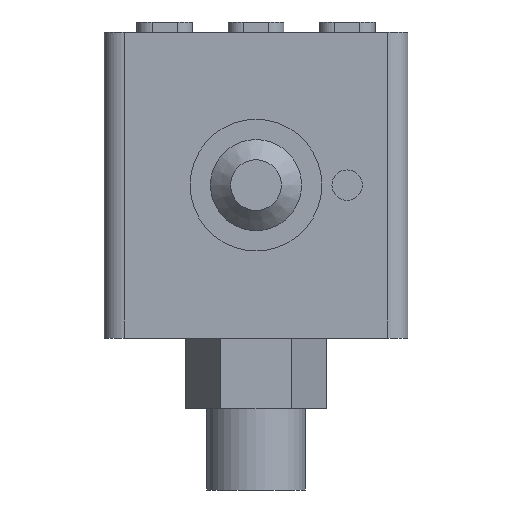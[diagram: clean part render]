
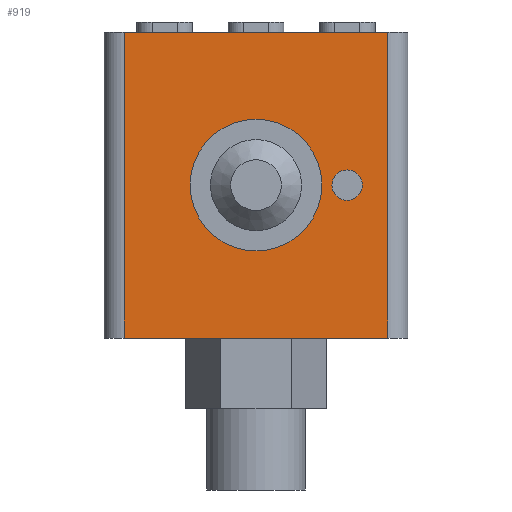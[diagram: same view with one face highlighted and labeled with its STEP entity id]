
A CAD part, front view. The second image highlights one B-rep face of the part: STEP entity #919.
In plain terms, the highlighted planar face has unit normal (0, -1, 0).
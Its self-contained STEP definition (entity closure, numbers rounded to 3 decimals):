
#20=FACE_BOUND('',#189,.T.);
#21=FACE_BOUND('',#190,.T.);
#56=PLANE('',#1037);
#129=FACE_OUTER_BOUND('',#188,.T.);
#188=EDGE_LOOP('',(#826,#827,#828,#829));
#189=EDGE_LOOP('',(#830));
#190=EDGE_LOOP('',(#831));
#266=LINE('',#1554,#347);
#274=LINE('',#1577,#355);
#275=LINE('',#1580,#356);
#276=LINE('',#1581,#357);
#347=VECTOR('',#1282,10.);
#355=VECTOR('',#1308,10.);
#356=VECTOR('',#1311,10.);
#357=VECTOR('',#1312,10.);
#395=CIRCLE('',#1019,1.5);
#396=CIRCLE('',#1023,6.5);
#472=VERTEX_POINT('',#1530);
#473=VERTEX_POINT('',#1536);
#480=VERTEX_POINT('',#1551);
#481=VERTEX_POINT('',#1553);
#487=VERTEX_POINT('',#1575);
#488=VERTEX_POINT('',#1579);
#589=EDGE_CURVE('',#472,#472,#395,.T.);
#591=EDGE_CURVE('',#473,#473,#396,.T.);
#598=EDGE_CURVE('',#480,#481,#266,.T.);
#610=EDGE_CURVE('',#480,#487,#274,.T.);
#611=EDGE_CURVE('',#488,#487,#275,.T.);
#612=EDGE_CURVE('',#481,#488,#276,.T.);
#826=ORIENTED_EDGE('',*,*,#610,.T.);
#827=ORIENTED_EDGE('',*,*,#611,.F.);
#828=ORIENTED_EDGE('',*,*,#612,.F.);
#829=ORIENTED_EDGE('',*,*,#598,.F.);
#830=ORIENTED_EDGE('',*,*,#589,.T.);
#831=ORIENTED_EDGE('',*,*,#591,.T.);
#919=ADVANCED_FACE('',(#129,#20,#21),#56,.T.);
#1019=AXIS2_PLACEMENT_3D('',#1532,#1260,#1261);
#1023=AXIS2_PLACEMENT_3D('',#1538,#1269,#1270);
#1037=AXIS2_PLACEMENT_3D('',#1578,#1309,#1310);
#1260=DIRECTION('center_axis',(0.,1.,0.));
#1261=DIRECTION('ref_axis',(-1.,0.,0.));
#1269=DIRECTION('center_axis',(0.,1.,0.));
#1270=DIRECTION('ref_axis',(-1.,0.,0.));
#1282=DIRECTION('',(-1.,0.,0.));
#1308=DIRECTION('',(0.,0.,1.));
#1309=DIRECTION('center_axis',(0.,-1.,0.));
#1310=DIRECTION('ref_axis',(1.,0.,0.));
#1311=DIRECTION('',(1.,0.,0.));
#1312=DIRECTION('',(0.,0.,1.));
#1530=CARTESIAN_POINT('',(10.5,-15.,0.));
#1532=CARTESIAN_POINT('Origin',(9.,-15.,0.));
#1536=CARTESIAN_POINT('',(6.5,-15.,0.));
#1538=CARTESIAN_POINT('Origin',(0.,-15.,0.));
#1551=CARTESIAN_POINT('',(13.,-15.,-15.1));
#1553=CARTESIAN_POINT('',(-13.,-15.,-15.1));
#1554=CARTESIAN_POINT('',(-13.,-15.,-15.1));
#1575=CARTESIAN_POINT('',(13.,-15.,15.1));
#1577=CARTESIAN_POINT('',(13.,-15.,0.));
#1578=CARTESIAN_POINT('Origin',(-13.,-15.,0.));
#1579=CARTESIAN_POINT('',(-13.,-15.,15.1));
#1580=CARTESIAN_POINT('',(-13.,-15.,15.1));
#1581=CARTESIAN_POINT('',(-13.,-15.,0.));
